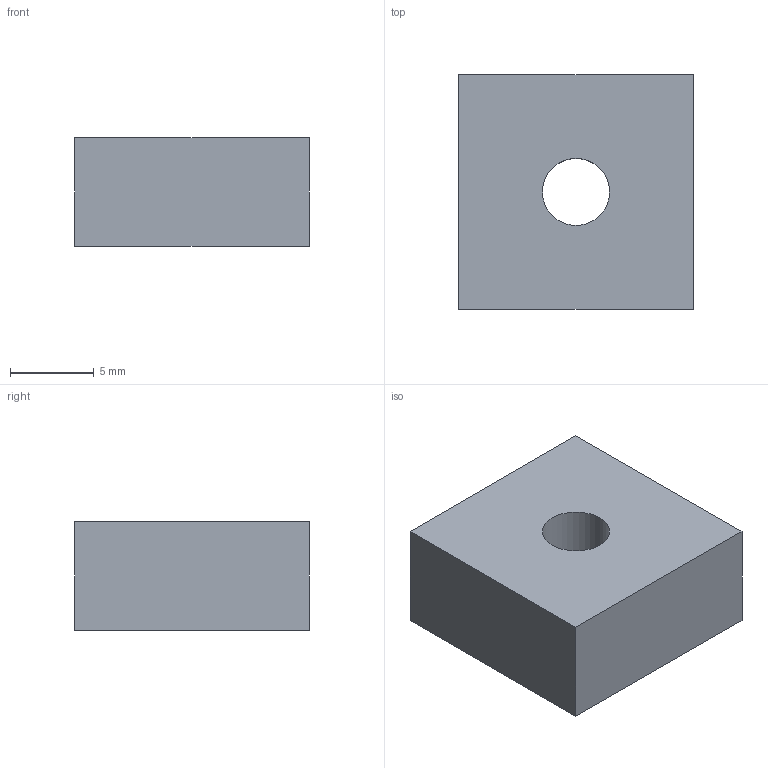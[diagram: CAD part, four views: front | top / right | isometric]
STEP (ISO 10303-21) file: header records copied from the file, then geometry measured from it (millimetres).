
FILE_DESCRIPTION( ( 'STEP AP203' ), '1' );
FILE_NAME( 'C:/NSM-08-4.stp', '2013-10-20T23:52:54', ( ' ' ), ( ' ' ), 'XStep 1.0', ' ', ' ' );
FILE_SCHEMA( ( 'CONFIG_CONTROL_DESIGN' ) );
Length unit declared in the file: metre
Products named in the file (1): 1
Bounding box: 14 x 14 x 6.5 mm (x, y, z)
Volume: 1191.7 mm3; surface area: 812.8 mm2
Topology: 1 solids, 1 shells, 7 faces, 15 edges, 10 vertices
Faces by surface type: bspline 7
Entity records: 243 total; most frequent: CARTESIAN_POINT 63, ORIENTED_EDGE 28, DIRECTION 18, EDGE_CURVE 14, LINE 12, VECTOR 12, EDGE_LOOP 10, VERTEX_POINT 10
